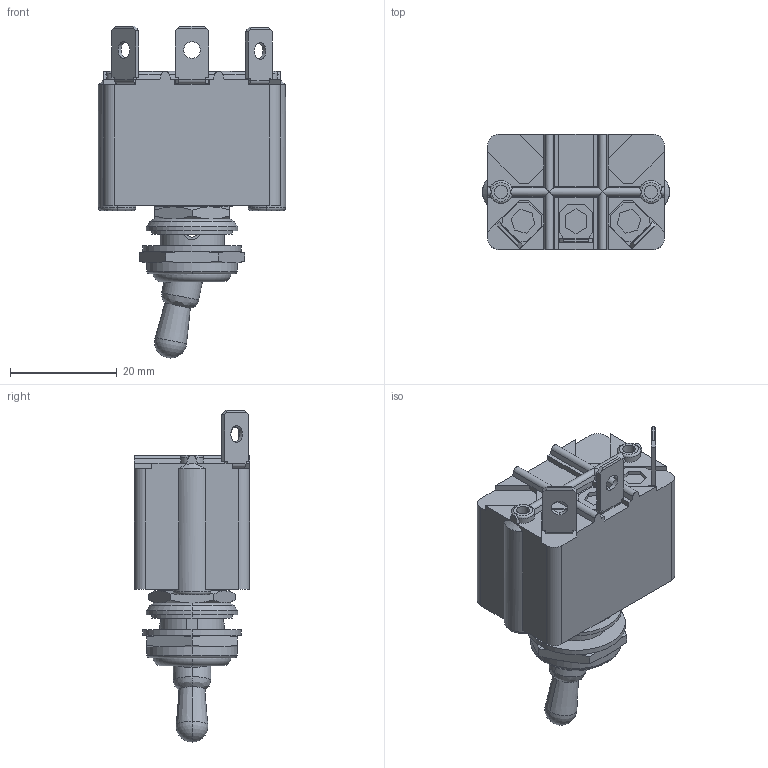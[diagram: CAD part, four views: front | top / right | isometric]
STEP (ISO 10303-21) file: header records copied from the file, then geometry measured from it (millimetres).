
FILE_DESCRIPTION((''),'2;1');
FILE_NAME('3636NF_2G_SW0001','2009-11-03T',('jlgachon'),(''),'PRO/ENGINEER BY PARAMETRIC TECHNOLOGY CORPORATION, 2008400','PRO/ENGINEER BY PARAMETRIC TECHNOLOGY CORPORATION, 2008400','');
FILE_SCHEMA(('CONFIG_CONTROL_DESIGN'));
Length unit declared in the file: millimetre
Products named in the file (1): 3636NF_2G_SW0001
Bounding box: 35 x 21.5 x 62.06 mm (x, y, z)
Volume: 18710.5 mm3; surface area: 8588 mm2
Topology: 3 solids, 3 shells, 460 faces, 1188 edges, 745 vertices
Faces by surface type: plane 275, cylinder 94, cone 46, torus 20, bspline 19, sphere 6
Entity records: 15835 total; most frequent: CARTESIAN_POINT 4795, ORIENTED_EDGE 2372, DIRECTION 2169, EDGE_CURVE 1186, VERTEX_POINT 745, AXIS2_PLACEMENT_3D 736, VECTOR 697, LINE 697
